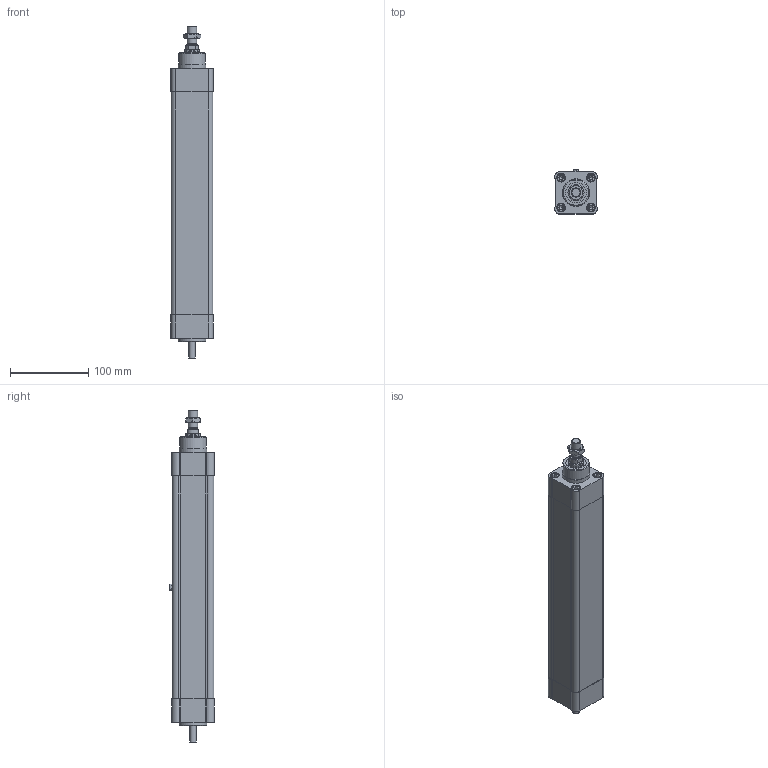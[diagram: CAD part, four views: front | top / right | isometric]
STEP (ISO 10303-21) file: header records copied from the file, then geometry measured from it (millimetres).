
FILE_DESCRIPTION(/* description */ ('STEP AP203'),/* implementation_level */ '2;1');
FILE_NAME(/* name */ 'PNCE 40 BS 1605 200 S(0)',/* time_stamp */ '2025-01-28T15:55:54+01:00',/* author */ ('License CC BY-ND 4.0'),/* organization */ ('CADENAS'),/* preprocessor_version */ 'ST-DEVELOPER v19.3',/* originating_system */ 'PARTsolutions',/* authorisation */ ' ');
FILE_SCHEMA (('CONFIG_CONTROL_DESIGN'));
Length unit declared in the file: millimetre
Products named in the file (6): PNCE 40 BS 1605 200 S(0); PNCE 40_drive cap; PNCE 40 200 S(0)_cylinder profil; PNCE 40_front cap; PNCE 40 200 S 0_piston rod; PNCE 40_nut
Assembly tree (5 placements, depth 2):
  PNCE 40 BS 1605 200 S(0)
    PNCE 40_drive cap
    PNCE 40 200 S(0)_cylinder profil
    PNCE 40_front cap
    PNCE 40 200 S 0_piston rod
    PNCE 40_nut
Bounding box: 53.97 x 56.5 x 423 mm (x, y, z)
Volume: 743397.7 mm3; surface area: 192111.4 mm2
Topology: 5 solids, 5 shells, 250 faces, 544 edges, 354 vertices
Faces by surface type: plane 136, cylinder 84, cone 30
Full cylindrical faces by diameter (mm): 4.917 x8, 5 x12, 5.3 x1, 6.5 x4, 8 x1, 8.566 x1, 10 x8, 10.4 x1, 10.647 x1, 11 x8, 12 x1, 19.9 x1, 20 x2, 22 x1, 26 x1, 34 x1, 35 x2, 39 x1, 40 x3
Entity records: 8005 total; most frequent: DIRECTION 1126, CARTESIAN_POINT 1121, ORIENTED_EDGE 884, AXIS2_PLACEMENT_3D 444, EDGE_CURVE 442, FACE_BOUND 409, EDGE_LOOP 400, VERTEX_POINT 347
